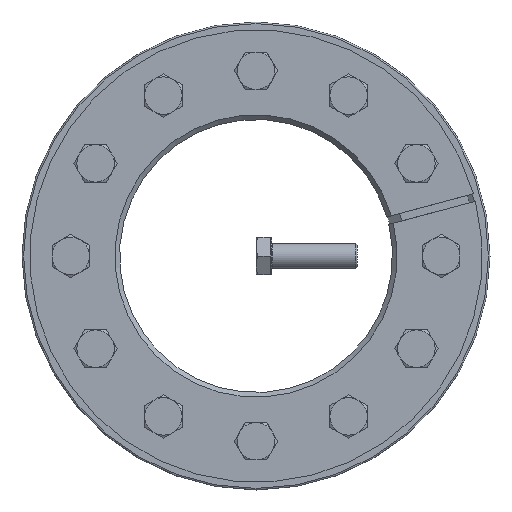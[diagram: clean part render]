
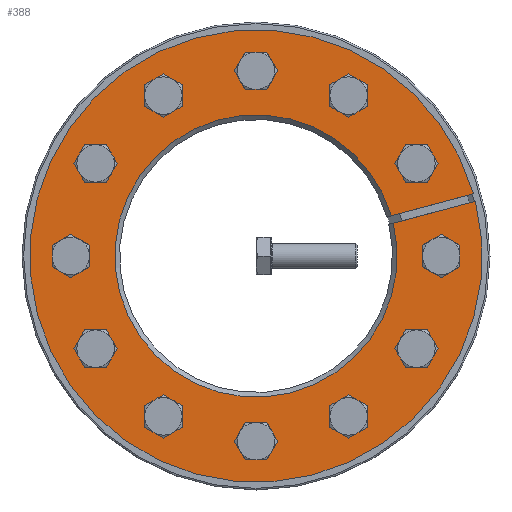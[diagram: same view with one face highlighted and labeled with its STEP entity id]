
A CAD part, front view. The second image highlights one B-rep face of the part: STEP entity #388.
In plain terms, the highlighted planar face has unit normal (0, -1, 0).
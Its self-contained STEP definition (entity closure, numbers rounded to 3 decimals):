
#388 = ADVANCED_FACE( '', ( #610, #611, #612, #613, #614, #615, #616, #617, #618, #619, #620, #621, #622 ), #623, .F. );
#610 = FACE_BOUND( '', #776, .T. );
#611 = FACE_BOUND( '', #777, .T. );
#612 = FACE_BOUND( '', #778, .T. );
#613 = FACE_BOUND( '', #779, .T. );
#614 = FACE_BOUND( '', #780, .T. );
#615 = FACE_BOUND( '', #781, .T. );
#616 = FACE_BOUND( '', #782, .T. );
#617 = FACE_BOUND( '', #783, .T. );
#618 = FACE_BOUND( '', #784, .T. );
#619 = FACE_BOUND( '', #785, .T. );
#620 = FACE_BOUND( '', #786, .T. );
#621 = FACE_BOUND( '', #787, .T. );
#622 = FACE_OUTER_BOUND( '', #788, .T. );
#623 = PLANE( '', #789 );
#776 = EDGE_LOOP( '', ( #971 ) );
#777 = EDGE_LOOP( '', ( #972 ) );
#778 = EDGE_LOOP( '', ( #973 ) );
#779 = EDGE_LOOP( '', ( #974 ) );
#780 = EDGE_LOOP( '', ( #975 ) );
#781 = EDGE_LOOP( '', ( #976 ) );
#782 = EDGE_LOOP( '', ( #977 ) );
#783 = EDGE_LOOP( '', ( #978 ) );
#784 = EDGE_LOOP( '', ( #979 ) );
#785 = EDGE_LOOP( '', ( #980 ) );
#786 = EDGE_LOOP( '', ( #981 ) );
#787 = EDGE_LOOP( '', ( #982 ) );
#788 = EDGE_LOOP( '', ( #983, #984, #985, #986 ) );
#789 = AXIS2_PLACEMENT_3D( '', #987, #988, #989 );
#971 = ORIENTED_EDGE( '', *, *, #1351, .T. );
#972 = ORIENTED_EDGE( '', *, *, #1352, .T. );
#973 = ORIENTED_EDGE( '', *, *, #1353, .T. );
#974 = ORIENTED_EDGE( '', *, *, #1354, .T. );
#975 = ORIENTED_EDGE( '', *, *, #1355, .T. );
#976 = ORIENTED_EDGE( '', *, *, #1356, .T. );
#977 = ORIENTED_EDGE( '', *, *, #1357, .T. );
#978 = ORIENTED_EDGE( '', *, *, #1358, .T. );
#979 = ORIENTED_EDGE( '', *, *, #1359, .T. );
#980 = ORIENTED_EDGE( '', *, *, #1360, .T. );
#981 = ORIENTED_EDGE( '', *, *, #1361, .T. );
#982 = ORIENTED_EDGE( '', *, *, #1362, .T. );
#983 = ORIENTED_EDGE( '', *, *, #1363, .T. );
#984 = ORIENTED_EDGE( '', *, *, #1364, .T. );
#985 = ORIENTED_EDGE( '', *, *, #1365, .F. );
#986 = ORIENTED_EDGE( '', *, *, #1366, .T. );
#987 = CARTESIAN_POINT( '', ( 0., 0., 150. ) );
#988 = DIRECTION( '', ( 0., 1., 0. ) );
#989 = DIRECTION( '', ( 0., 0., 1. ) );
#1351 = EDGE_CURVE( '', #1480, #1480, #1481, .T. );
#1352 = EDGE_CURVE( '', #1482, #1482, #1483, .T. );
#1353 = EDGE_CURVE( '', #1484, #1484, #1485, .T. );
#1354 = EDGE_CURVE( '', #1486, #1486, #1487, .T. );
#1355 = EDGE_CURVE( '', #1488, #1488, #1489, .T. );
#1356 = EDGE_CURVE( '', #1490, #1490, #1491, .T. );
#1357 = EDGE_CURVE( '', #1492, #1492, #1493, .T. );
#1358 = EDGE_CURVE( '', #1494, #1494, #1495, .T. );
#1359 = EDGE_CURVE( '', #1496, #1496, #1497, .T. );
#1360 = EDGE_CURVE( '', #1498, #1498, #1499, .T. );
#1361 = EDGE_CURVE( '', #1500, #1500, #1501, .T. );
#1362 = EDGE_CURVE( '', #1502, #1502, #1503, .T. );
#1363 = EDGE_CURVE( '', #1504, #1505, #1506, .T. );
#1364 = EDGE_CURVE( '', #1505, #1507, #1508, .T. );
#1365 = EDGE_CURVE( '', #1509, #1507, #1510, .T. );
#1366 = EDGE_CURVE( '', #1509, #1504, #1511, .T. );
#1480 = VERTEX_POINT( '', #1589 );
#1481 = CIRCLE( '', #1590, 8. );
#1482 = VERTEX_POINT( '', #1591 );
#1483 = CIRCLE( '', #1592, 8. );
#1484 = VERTEX_POINT( '', #1593 );
#1485 = CIRCLE( '', #1594, 8. );
#1486 = VERTEX_POINT( '', #1595 );
#1487 = CIRCLE( '', #1596, 8. );
#1488 = VERTEX_POINT( '', #1597 );
#1489 = CIRCLE( '', #1598, 8. );
#1490 = VERTEX_POINT( '', #1599 );
#1491 = CIRCLE( '', #1600, 8. );
#1492 = VERTEX_POINT( '', #1601 );
#1493 = CIRCLE( '', #1602, 8. );
#1494 = VERTEX_POINT( '', #1603 );
#1495 = CIRCLE( '', #1604, 8. );
#1496 = VERTEX_POINT( '', #1605 );
#1497 = CIRCLE( '', #1606, 8. );
#1498 = VERTEX_POINT( '', #1607 );
#1499 = CIRCLE( '', #1608, 8. );
#1500 = VERTEX_POINT( '', #1609 );
#1501 = CIRCLE( '', #1610, 8. );
#1502 = VERTEX_POINT( '', #1611 );
#1503 = CIRCLE( '', #1612, 8. );
#1504 = VERTEX_POINT( '', #1613 );
#1505 = VERTEX_POINT( '', #1614 );
#1506 = LINE( '', #1615, #1616 );
#1507 = VERTEX_POINT( '', #1617 );
#1508 = CIRCLE( '', #1618, 90.5 );
#1509 = VERTEX_POINT( '', #1619 );
#1510 = LINE( '', #1620, #1621 );
#1511 = CIRCLE( '', #1622, 145. );
#1589 = CARTESIAN_POINT( '', ( 98.841, 0., -66.303 ) );
#1590 = AXIS2_PLACEMENT_3D( '', #1736, #1737, #1738 );
#1591 = CARTESIAN_POINT( '', ( -8., 0., -118.75 ) );
#1592 = AXIS2_PLACEMENT_3D( '', #1739, #1740, #1741 );
#1593 = CARTESIAN_POINT( '', ( -106.841, 0., -52.447 ) );
#1594 = AXIS2_PLACEMENT_3D( '', #1742, #1743, #1744 );
#1595 = CARTESIAN_POINT( '', ( -98.841, 0., 66.303 ) );
#1596 = AXIS2_PLACEMENT_3D( '', #1745, #1746, #1747 );
#1597 = CARTESIAN_POINT( '', ( 8., 0., 118.75 ) );
#1598 = AXIS2_PLACEMENT_3D( '', #1748, #1749, #1750 );
#1599 = CARTESIAN_POINT( '', ( 106.841, 0., 52.447 ) );
#1600 = AXIS2_PLACEMENT_3D( '', #1751, #1752, #1753 );
#1601 = CARTESIAN_POINT( '', ( 118.75, 0., -8. ) );
#1602 = AXIS2_PLACEMENT_3D( '', #1754, #1755, #1756 );
#1603 = CARTESIAN_POINT( '', ( 66.303, 0., 98.841 ) );
#1604 = AXIS2_PLACEMENT_3D( '', #1757, #1758, #1759 );
#1605 = CARTESIAN_POINT( '', ( -52.447, 0., 106.841 ) );
#1606 = AXIS2_PLACEMENT_3D( '', #1760, #1761, #1762 );
#1607 = CARTESIAN_POINT( '', ( -118.75, 0., 8. ) );
#1608 = AXIS2_PLACEMENT_3D( '', #1763, #1764, #1765 );
#1609 = CARTESIAN_POINT( '', ( -66.303, 0., -98.841 ) );
#1610 = AXIS2_PLACEMENT_3D( '', #1766, #1767, #1768 );
#1611 = CARTESIAN_POINT( '', ( 52.447, 0., -106.841 ) );
#1612 = AXIS2_PLACEMENT_3D( '', #1769, #1770, #1771 );
#1613 = CARTESIAN_POINT( '', ( 140.685, 0., 35.108 ) );
#1614 = CARTESIAN_POINT( '', ( 88.03, 0., 20.999 ) );
#1615 = CARTESIAN_POINT( '', ( 140.706, 0., 35.114 ) );
#1616 = VECTOR( '', #1772, 1000. );
#1617 = CARTESIAN_POINT( '', ( 86.736, 0., 25.829 ) );
#1618 = AXIS2_PLACEMENT_3D( '', #1773, #1774, #1775 );
#1619 = CARTESIAN_POINT( '', ( 139.391, 0., 39.938 ) );
#1620 = CARTESIAN_POINT( '', ( 139.412, 0., 39.944 ) );
#1621 = VECTOR( '', #1776, 1000. );
#1622 = AXIS2_PLACEMENT_3D( '', #1777, #1778, #1779 );
#1736 = CARTESIAN_POINT( '', ( 102.841, 0., -59.375 ) );
#1737 = DIRECTION( '', ( 0., 1., 0. ) );
#1738 = DIRECTION( '', ( -0.5, 0., -0.866 ) );
#1739 = CARTESIAN_POINT( '', ( 0., 0., -118.75 ) );
#1740 = DIRECTION( '', ( 0., 1., 0. ) );
#1741 = DIRECTION( '', ( -1., 0., 0. ) );
#1742 = CARTESIAN_POINT( '', ( -102.841, 0., -59.375 ) );
#1743 = DIRECTION( '', ( 0., 1., 0. ) );
#1744 = DIRECTION( '', ( -0.5, 0., 0.866 ) );
#1745 = CARTESIAN_POINT( '', ( -102.841, 0., 59.375 ) );
#1746 = DIRECTION( '', ( 0., 1., 0. ) );
#1747 = DIRECTION( '', ( 0.5, 0., 0.866 ) );
#1748 = CARTESIAN_POINT( '', ( 0., 0., 118.75 ) );
#1749 = DIRECTION( '', ( 0., 1., 0. ) );
#1750 = DIRECTION( '', ( 1., 0., 0. ) );
#1751 = CARTESIAN_POINT( '', ( 102.841, 0., 59.375 ) );
#1752 = DIRECTION( '', ( 0., 1., 0. ) );
#1753 = DIRECTION( '', ( 0.5, 0., -0.866 ) );
#1754 = CARTESIAN_POINT( '', ( 118.75, 0., 0. ) );
#1755 = DIRECTION( '', ( 0., 1., 0. ) );
#1756 = DIRECTION( '', ( 0., 0., -1. ) );
#1757 = CARTESIAN_POINT( '', ( 59.375, 0., 102.841 ) );
#1758 = DIRECTION( '', ( 0., 1., 0. ) );
#1759 = DIRECTION( '', ( 0.866, 0., -0.5 ) );
#1760 = CARTESIAN_POINT( '', ( -59.375, 0., 102.841 ) );
#1761 = DIRECTION( '', ( 0., 1., 0. ) );
#1762 = DIRECTION( '', ( 0.866, 0., 0.5 ) );
#1763 = CARTESIAN_POINT( '', ( -118.75, 0., 0. ) );
#1764 = DIRECTION( '', ( 0., 1., 0. ) );
#1765 = DIRECTION( '', ( 0., 0., 1. ) );
#1766 = CARTESIAN_POINT( '', ( -59.375, 0., -102.841 ) );
#1767 = DIRECTION( '', ( 0., 1., 0. ) );
#1768 = DIRECTION( '', ( -0.866, 0., 0.5 ) );
#1769 = CARTESIAN_POINT( '', ( 59.375, 0., -102.841 ) );
#1770 = DIRECTION( '', ( 0., 1., 0. ) );
#1771 = DIRECTION( '', ( -0.866, 0., -0.5 ) );
#1772 = DIRECTION( '', ( -0.966, 0., -0.259 ) );
#1773 = CARTESIAN_POINT( '', ( 0., 0., 0. ) );
#1774 = DIRECTION( '', ( 0., 1., 0. ) );
#1775 = DIRECTION( '', ( 0., 0., 1. ) );
#1776 = DIRECTION( '', ( -0.966, 0., -0.259 ) );
#1777 = CARTESIAN_POINT( '', ( 0., 0., 0. ) );
#1778 = DIRECTION( '', ( 0., -1., 0. ) );
#1779 = DIRECTION( '', ( 0., 0., -1. ) );
